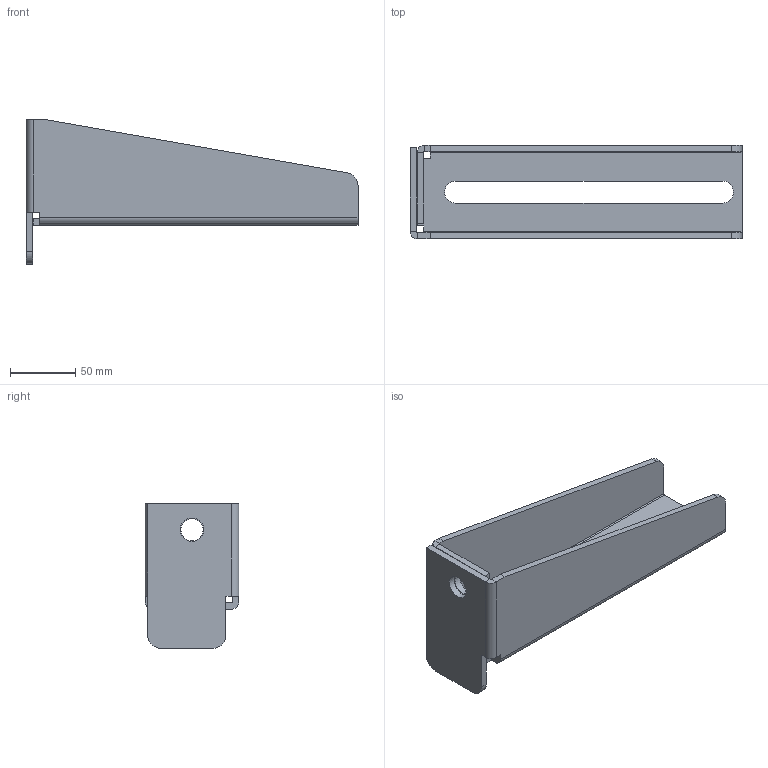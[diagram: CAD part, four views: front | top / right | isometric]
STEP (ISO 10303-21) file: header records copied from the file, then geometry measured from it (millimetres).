
FILE_DESCRIPTION(/* description */ ('Dreifachkonsole 250'),/* implementation_level */ '2;1');
FILE_NAME(/* name */ 'Q:\sge-ma\Produktmanagement-STB\STB\Workspace\TraceParts\Dreifachkonsole\010335440.stp',/* time_stamp */ '2018-02-20T15:52:26+01:00',/* author */ ('avschreier'),/* organization */ (''),/* preprocessor_version */ 'ST-DEVELOPER v16.1',/* originating_system */ 'Autodesk Inventor 2016',/* authorisation */ '');
FILE_SCHEMA (('CONFIG_CONTROL_DESIGN'));
Length unit declared in the file: millimetre
Products named in the file (1): 010335440
Bounding box: 255 x 72 x 111 mm (x, y, z)
Volume: 258540.7 mm3; surface area: 112310 mm2
Topology: 1 solids, 1 shells, 56 faces, 138 edges, 84 vertices
Faces by surface type: plane 40, cylinder 16
Full cylindrical faces by diameter (mm): 17 x1, 18 x1
Entity records: 1648 total; most frequent: DIRECTION 282, CARTESIAN_POINT 277, ORIENTED_EDGE 272, EDGE_CURVE 136, LINE 104, VECTOR 104, AXIS2_PLACEMENT_3D 89, VERTEX_POINT 84
